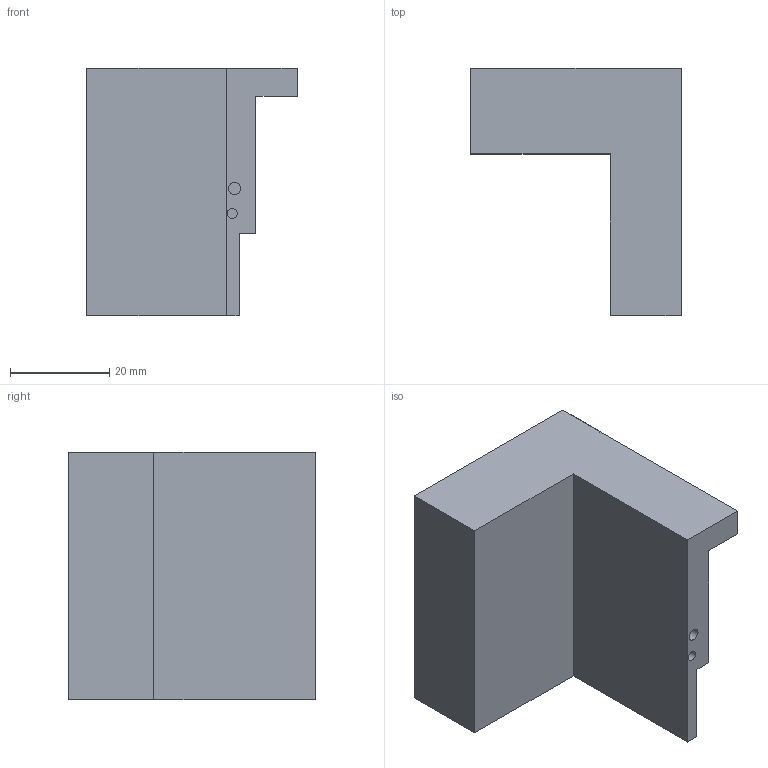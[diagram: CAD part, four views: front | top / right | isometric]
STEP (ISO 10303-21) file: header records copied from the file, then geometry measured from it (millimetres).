
FILE_DESCRIPTION(('Open CASCADE Model'),'2;1');
FILE_NAME('Open CASCADE Shape Model','2021-05-03T22:24:52',('Author'),( 'Open CASCADE'),'Open CASCADE STEP processor 7.4','Open CASCADE 7.4' ,'Unknown');
FILE_SCHEMA(('AUTOMOTIVE_DESIGN { 1 0 10303 214 1 1 1 1 }'));
Length unit declared in the file: millimetre
Products named in the file (1): Open CASCADE STEP translator 7.4 289
Bounding box: 42.35 x 49.82 x 49.81 mm (x, y, z)
Volume: 37779.3 mm3; surface area: 11281.1 mm2
Topology: 1 solids, 1 shells, 25 faces, 60 edges, 40 vertices
Faces by surface type: plane 23, cylinder 2
Full cylindrical faces by diameter (mm): 2 x1, 2.46 x1
Entity records: 1514 total; most frequent: CARTESIAN_POINT 258, DIRECTION 234, LINE 172, VECTOR 172, ORIENTED_EDGE 120, PCURVE 120, DEFINITIONAL_REPRESENTATION 120, EDGE_CURVE 60
